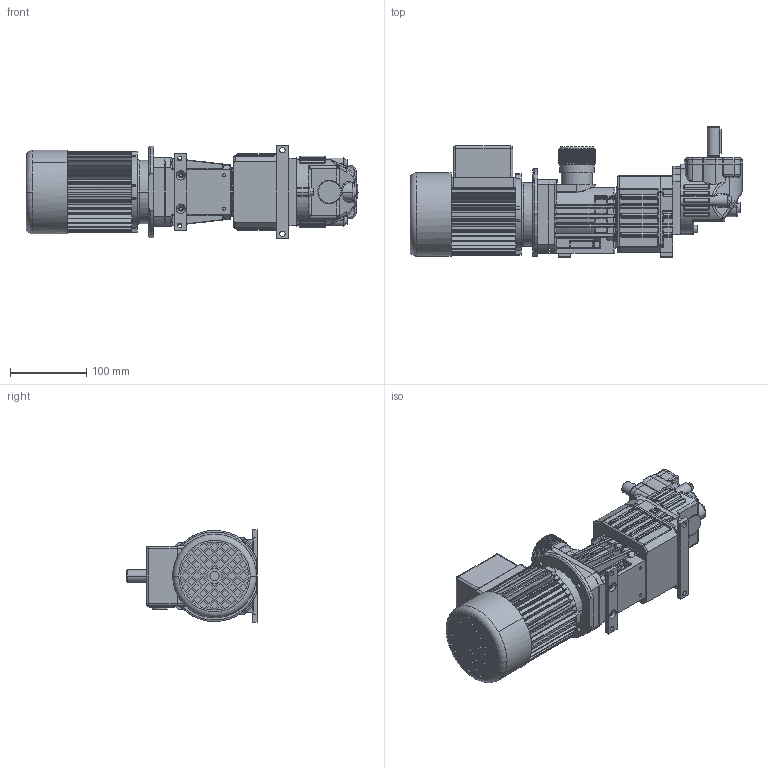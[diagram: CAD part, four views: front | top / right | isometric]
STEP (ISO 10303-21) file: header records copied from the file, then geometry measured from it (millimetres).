
FILE_DESCRIPTION(('CoCreate Modeling STEP Export'),'2;1');
FILE_NAME('K239W3_K269W3_ig_alle_BF_B3_W3_Wellenanordnung_C_Standardstelleinrichtung_180W_Motor.stp','2010-09-07T14:32:37',(''),(''),'CoCreate Modeling STEP processor for AP214 (Solid Model)','CoCreate Modeling 16.00C 25-Feb-2009 (C) Parametric Technology GmbH','');
FILE_SCHEMA(('AUTOMOTIVE_DESIGN { 1 0 10303 214 1 1 1 1 }'));
Products named in the file (3): K239W3_K269W3_ig_alle_BF_B3_W3_Wellenanordnung_C_Standardstelleinrichtu
ng; 180W_Motor; K239W3_K269W3_ig_alle_BF_B3_W3_Wellenanordnung_C_Standardstelleinrichtu
ng_180W_Motor
Assembly tree (2 placements, depth 2):
  K239W3_K269W3_ig_alle_BF_B3_W3_Wellenanordnung_C_Standardstelleinrichtu
ng_180W_Motor
    180W_Motor
    K239W3_K269W3_ig_alle_BF_B3_W3_Wellenanordnung_C_Standardstelleinrichtu
ng
Bounding box: 436.61 x 171.2 x 122 mm (x, y, z)
Volume: 3603642.8 mm3; surface area: 298903.6 mm2
Topology: 2 solids, 7 shells, 2994 faces, 7485 edges, 4441 vertices
Faces by surface type: plane 1068, cylinder 1025, bspline 461, torus 258, sphere 131, cone 26, extrusion 25
Entity records: 168652 total; most frequent: CARTESIAN_POINT 89128, ORIENTED_EDGE 14610, DIRECTION 10717, EDGE_CURVE 7305, VERTEX_POINT 4441, AXIS2_PLACEMENT_3D 3782, VECTOR 3153, LINE 3128
